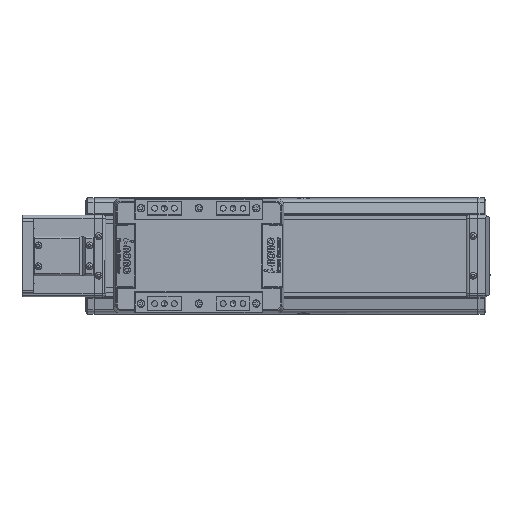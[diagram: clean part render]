
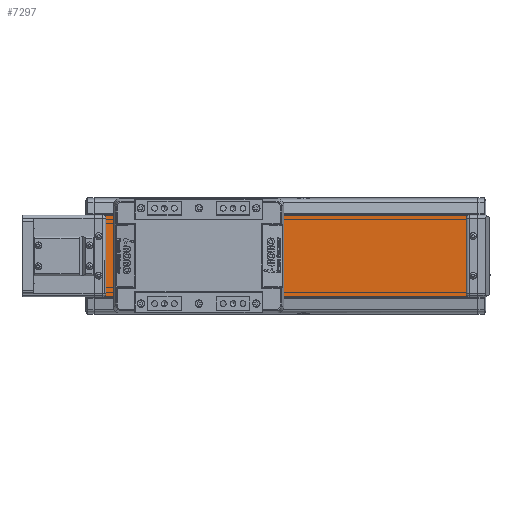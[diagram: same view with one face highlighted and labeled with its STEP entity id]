
A CAD part, top view. The second image highlights one B-rep face of the part: STEP entity #7297.
In plain terms, the highlighted planar face has unit normal (0, 0, 1).
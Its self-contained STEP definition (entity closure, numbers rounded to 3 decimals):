
#7297=ADVANCED_FACE('',(#14720),#14721,.T.);
#14720=FACE_OUTER_BOUND('',#22993,.T.);
#14721=PLANE('',#22994);
#22993=EDGE_LOOP('',(#44238,#44239,#44240,#44241));
#22994=AXIS2_PLACEMENT_3D('',#44242,#44243,#44244);
#44238=ORIENTED_EDGE('',*,*,#50033,.T.);
#44239=ORIENTED_EDGE('',*,*,#51778,.F.);
#44240=ORIENTED_EDGE('',*,*,#50782,.T.);
#44241=ORIENTED_EDGE('',*,*,#52134,.T.);
#44242=CARTESIAN_POINT('',(-580.,0.,20.15));
#44243=DIRECTION('',(0.,0.,1.0));
#44244=DIRECTION('',(0.,-1.0,0.));
#50033=EDGE_CURVE('',#61820,#61824,#61826,.T.);
#50782=EDGE_CURVE('',#62837,#62835,#62838,.T.);
#51778=EDGE_CURVE('',#62837,#61824,#64010,.T.);
#52134=EDGE_CURVE('',#62835,#61820,#64406,.T.);
#61820=VERTEX_POINT('',#78000);
#61824=VERTEX_POINT('',#78006);
#61826=LINE('',#78009,#78010);
#62835=VERTEX_POINT('',#79408);
#62837=VERTEX_POINT('',#79411);
#62838=LINE('',#79412,#79413);
#64010=LINE('',#81052,#81053);
#64406=LINE('',#81576,#81577);
#78000=CARTESIAN_POINT('',(-250.,-35.,20.15));
#78006=CARTESIAN_POINT('',(-250.,35.,20.15));
#78009=CARTESIAN_POINT('',(-250.,35.,20.15));
#78010=VECTOR('',#90278,10.0);
#79408=CARTESIAN_POINT('',(-580.,-35.,20.15));
#79411=CARTESIAN_POINT('',(-580.,35.,20.15));
#79412=CARTESIAN_POINT('',(-580.,35.,20.15));
#79413=VECTOR('',#91254,10.0);
#81052=CARTESIAN_POINT('',(-580.,35.,20.15));
#81053=VECTOR('',#92356,10.0);
#81576=CARTESIAN_POINT('',(-580.,-35.,20.15));
#81577=VECTOR('',#92606,10.0);
#90278=DIRECTION('',(0.,1.0,0.));
#91254=DIRECTION('',(0.,-1.0,0.));
#92356=DIRECTION('',(1.0,0.,0.));
#92606=DIRECTION('',(1.0,0.,0.));
